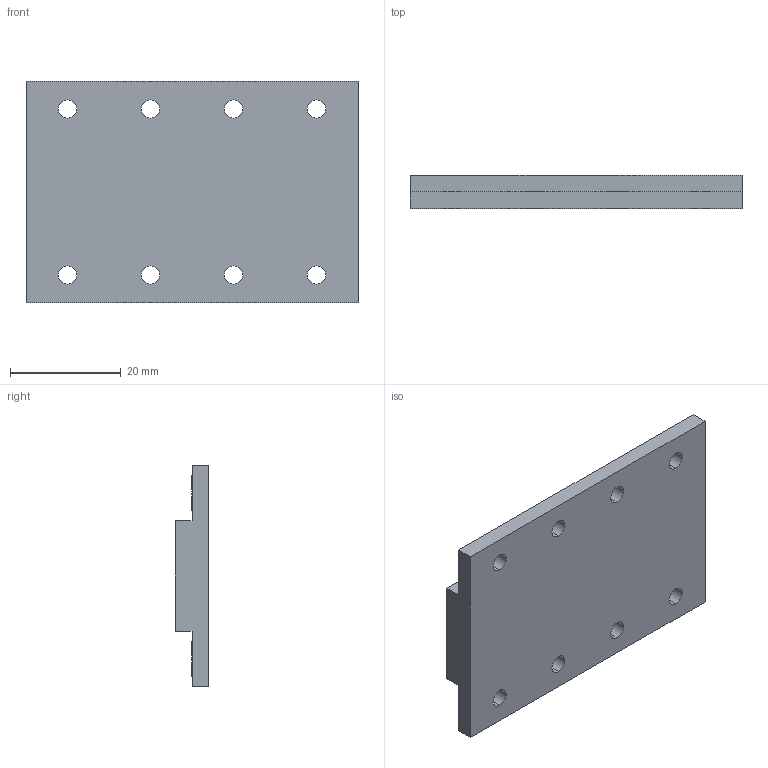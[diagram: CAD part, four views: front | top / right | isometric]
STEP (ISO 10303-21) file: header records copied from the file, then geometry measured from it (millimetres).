
FILE_DESCRIPTION (( 'STEP AP203' ), '1' );
FILE_NAME ('DPN30M60.STEP', '2017-12-15T06:47:58', ( 'Windows 蚚誧' ), ( '' ), 'SwSTEP 2.0', 'SolidWorks 2016', '' );
FILE_SCHEMA (( 'CONFIG_CONTROL_DESIGN' ));
Length unit declared in the file: millimetre
Products named in the file (1): DPN30M60
Bounding box: 60 x 6 x 40 mm (x, y, z)
Volume: 10594.7 mm3; surface area: 5992 mm2
Topology: 1 solids, 1 shells, 26 faces, 72 edges, 48 vertices
Faces by surface type: cylinder 16, plane 10
Entity records: 957 total; most frequent: DIRECTION 158, CARTESIAN_POINT 147, ORIENTED_EDGE 144, EDGE_CURVE 72, AXIS2_PLACEMENT_3D 59, VERTEX_POINT 48, EDGE_LOOP 42, LINE 40
